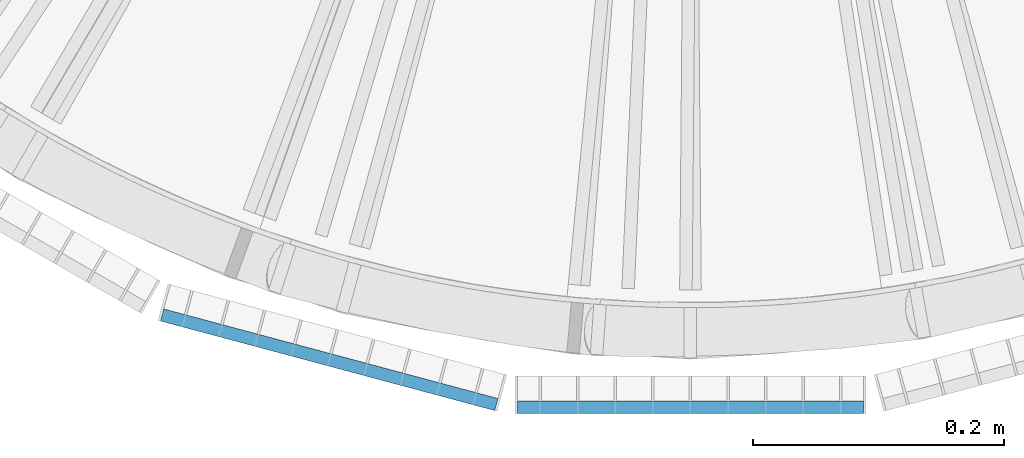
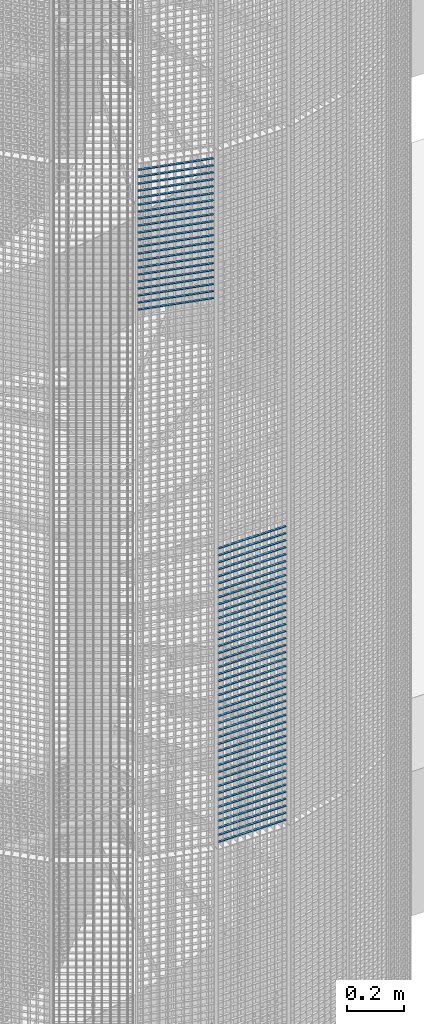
# One storey, part 149 of 1148: 64 beams, 2 elements without a shape of their own.
"""IFC2X3 building model written with IfcOpenShell, lengths in millimetres."""

from ifc_helpers import new_model, si_unit, frame, origin_with_axes, origin_2d_with_axis, place, context, subcontext, project, spatial, rectangle, extrude, material, type_object, element, aggregate, save


model = new_model("IFC2X3")

# Units and contexts
model_context = context("Model", 3, precision=1e-05, world=origin_with_axes())
body_context = subcontext(model_context, "Body", "Model", "MODEL_VIEW")
ifc_project = project(units=[si_unit("LENGTHUNIT", "METRE", prefix="MILLI"), si_unit("AREAUNIT", "SQUARE_METRE"), si_unit("VOLUMEUNIT", "CUBIC_METRE"), si_unit("MASSUNIT", "GRAM", prefix="KILO"), si_unit("TIMEUNIT", "SECOND"), si_unit("PLANEANGLEUNIT", "RADIAN"), si_unit("SOLIDANGLEUNIT", "STERADIAN"), si_unit("THERMODYNAMICTEMPERATUREUNIT", "DEGREE_CELSIUS"), si_unit("LUMINOUSINTENSITYUNIT", "LUMEN")], contexts=[model_context])

# Site, building, storey
site_placement = place(None, origin_with_axes())
site = spatial("IfcSite", under=ifc_project, at=site_placement, Name="Undefined", CompositionType="ELEMENT")
building_placement = place(site_placement, origin_with_axes())
building = spatial("IfcBuilding", under=site, at=building_placement, Name="Undefined", CompositionType="ELEMENT")
storey_placement = place(building_placement, origin_with_axes())
storey = spatial("IfcBuildingStorey", under=building, at=storey_placement, Name="Undefined", CompositionType="ELEMENT", Elevation=0.0)

# Assembly, beams
assembly_1_placement = place(storey_placement, origin_with_axes())
assembly_1 = element("IfcElementAssembly", 1, at=assembly_1_placement, inside=storey, Name="BORDURE", AssemblyPlace="NOTDEFINED", PredefinedType="NOTDEFINED")
ifc_material = material(Name="STEEL/S235JR")
beam_type = type_object("IfcBeamType", Name="PL2*10", PredefinedType="NOTDEFINED")
beam_1_placement = place(assembly_1_placement, frame((-137.996003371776, -1113.47999999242, 10290.0), z_axis=(0.0, -1.0, 0.0), x_axis=(1.0, 0.0, 0.0)))
beam_1 = element("IfcBeam", 2, at=beam_1_placement, type_object=beam_type, material=ifc_material, Name="ENTRETOISE", context=body_context, shape_type="SweptSolid", body=[
    extrude(rectangle(XDim=2.0, YDim=10.0, at=origin_2d_with_axis()), frame((275.999999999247, 9.09494701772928e-13, 1.53210777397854e-14), z_axis=(-1.0, 0.0, 0.0), x_axis=(0.0, -1.0, 0.0)), (0.0, 0.0, 1.0), 276.0),
])
beam_2_placement = place(assembly_1_placement, frame((-137.996003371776, -1113.47999999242, 10260.0), z_axis=(0.0, -1.0, 0.0), x_axis=(1.0, 0.0, 0.0)))
beam_2 = element("IfcBeam", 3, at=beam_2_placement, type_object=beam_type, material=ifc_material, Name="ENTRETOISE", context=body_context, shape_type="SweptSolid", body=[
    extrude(rectangle(XDim=2.0, YDim=10.0, at=origin_2d_with_axis()), frame((275.999999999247, 9.09494701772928e-13, 1.53210777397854e-14), z_axis=(-1.0, 0.0, 0.0), x_axis=(0.0, -1.0, 0.0)), (0.0, 0.0, 1.0), 276.0),
])
beam_3_placement = place(assembly_1_placement, frame((-137.996003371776, -1113.47999999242, 10230.0), z_axis=(0.0, -1.0, 0.0), x_axis=(1.0, 0.0, 0.0)))
beam_3 = element("IfcBeam", 4, at=beam_3_placement, type_object=beam_type, material=ifc_material, Name="ENTRETOISE", context=body_context, shape_type="SweptSolid", body=[
    extrude(rectangle(XDim=2.0, YDim=10.0, at=origin_2d_with_axis()), frame((275.999999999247, 9.09494701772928e-13, 1.53210777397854e-14), z_axis=(-1.0, 0.0, 0.0), x_axis=(0.0, -1.0, 0.0)), (0.0, 0.0, 1.0), 276.0),
])
beam_4_placement = place(assembly_1_placement, frame((-137.996003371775, -1113.47999999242, 10200.0), z_axis=(0.0, -1.0, 0.0), x_axis=(1.0, 0.0, 0.0)))
beam_4 = element("IfcBeam", 5, at=beam_4_placement, type_object=beam_type, material=ifc_material, Name="ENTRETOISE", context=body_context, shape_type="SweptSolid", body=[
    extrude(rectangle(XDim=2.0, YDim=10.0, at=origin_2d_with_axis()), frame((275.999999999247, 9.09494701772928e-13, 1.53210777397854e-14), z_axis=(-1.0, 0.0, 0.0), x_axis=(0.0, -1.0, 0.0)), (0.0, 0.0, 1.0), 276.0),
])
beam_5_placement = place(assembly_1_placement, frame((-137.996003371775, -1113.47999999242, 10170.0), z_axis=(0.0, -1.0, 0.0), x_axis=(1.0, 0.0, 0.0)))
beam_5 = element("IfcBeam", 6, at=beam_5_placement, type_object=beam_type, material=ifc_material, Name="ENTRETOISE", context=body_context, shape_type="SweptSolid", body=[
    extrude(rectangle(XDim=2.0, YDim=10.0, at=origin_2d_with_axis()), frame((275.999999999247, 9.09494701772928e-13, 1.53210777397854e-14), z_axis=(-1.0, 0.0, 0.0), x_axis=(0.0, -1.0, 0.0)), (0.0, 0.0, 1.0), 276.0),
])
beam_6_placement = place(assembly_1_placement, frame((-137.996003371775, -1113.47999999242, 10140.0), z_axis=(0.0, -1.0, 0.0), x_axis=(1.0, 0.0, 0.0)))
beam_6 = element("IfcBeam", 7, at=beam_6_placement, type_object=beam_type, material=ifc_material, Name="ENTRETOISE", context=body_context, shape_type="SweptSolid", body=[
    extrude(rectangle(XDim=2.0, YDim=10.0, at=origin_2d_with_axis()), frame((275.999999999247, 9.09494701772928e-13, 1.53210777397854e-14), z_axis=(-1.0, 0.0, 0.0), x_axis=(0.0, -1.0, 0.0)), (0.0, 0.0, 1.0), 276.0),
])
beam_7_placement = place(assembly_1_placement, frame((-137.996003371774, -1113.47999999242, 9720.0), z_axis=(0.0, -1.0, 0.0), x_axis=(1.0, 0.0, 0.0)))
beam_7 = element("IfcBeam", 8, at=beam_7_placement, type_object=beam_type, material=ifc_material, Name="ENTRETOISE", context=body_context, shape_type="SweptSolid", body=[
    extrude(rectangle(XDim=2.0, YDim=10.0, at=origin_2d_with_axis()), frame((275.999999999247, 9.09494701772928e-13, 1.53210777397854e-14), z_axis=(-1.0, 0.0, 0.0), x_axis=(0.0, -1.0, 0.0)), (0.0, 0.0, 1.0), 276.0),
])
beam_8_placement = place(assembly_1_placement, frame((-137.996003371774, -1113.47999999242, 9690.0), z_axis=(0.0, -1.0, 0.0), x_axis=(1.0, 0.0, 0.0)))
beam_8 = element("IfcBeam", 9, at=beam_8_placement, type_object=beam_type, material=ifc_material, Name="ENTRETOISE", context=body_context, shape_type="SweptSolid", body=[
    extrude(rectangle(XDim=2.0, YDim=10.0, at=origin_2d_with_axis()), frame((275.999999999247, 9.09494701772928e-13, 1.53210777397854e-14), z_axis=(-1.0, 0.0, 0.0), x_axis=(0.0, -1.0, 0.0)), (0.0, 0.0, 1.0), 276.0),
])
beam_9_placement = place(assembly_1_placement, frame((-137.996003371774, -1113.47999999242, 9750.0), z_axis=(0.0, -1.0, 0.0), x_axis=(1.0, 0.0, 0.0)))
beam_9 = element("IfcBeam", 10, at=beam_9_placement, type_object=beam_type, material=ifc_material, Name="ENTRETOISE", context=body_context, shape_type="SweptSolid", body=[
    extrude(rectangle(XDim=2.0, YDim=10.0, at=origin_2d_with_axis()), frame((275.999999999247, 9.09494701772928e-13, 1.53210777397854e-14), z_axis=(-1.0, 0.0, 0.0), x_axis=(0.0, -1.0, 0.0)), (0.0, 0.0, 1.0), 276.0),
])
beam_10_placement = place(assembly_1_placement, frame((-137.996003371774, -1113.47999999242, 9660.0), z_axis=(0.0, -1.0, 0.0), x_axis=(1.0, 0.0, 0.0)))
beam_10 = element("IfcBeam", 11, at=beam_10_placement, type_object=beam_type, material=ifc_material, Name="ENTRETOISE", context=body_context, shape_type="SweptSolid", body=[
    extrude(rectangle(XDim=2.0, YDim=10.0, at=origin_2d_with_axis()), frame((275.999999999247, 9.09494701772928e-13, 1.53210777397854e-14), z_axis=(-1.0, 0.0, 0.0), x_axis=(0.0, -1.0, 0.0)), (0.0, 0.0, 1.0), 276.0),
])
beam_11_placement = place(assembly_1_placement, frame((-137.996003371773, -1113.47999999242, 9630.0), z_axis=(0.0, -1.0, 0.0), x_axis=(1.0, 0.0, 0.0)))
beam_11 = element("IfcBeam", 12, at=beam_11_placement, type_object=beam_type, material=ifc_material, Name="ENTRETOISE", context=body_context, shape_type="SweptSolid", body=[
    extrude(rectangle(XDim=2.0, YDim=10.0, at=origin_2d_with_axis()), frame((275.999999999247, 9.09494701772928e-13, 1.53210777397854e-14), z_axis=(-1.0, 0.0, 0.0), x_axis=(0.0, -1.0, 0.0)), (0.0, 0.0, 1.0), 276.0),
])
beam_12_placement = place(assembly_1_placement, frame((-137.996003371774, -1113.47999999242, 9780.0), z_axis=(0.0, -1.0, 0.0), x_axis=(1.0, 0.0, 0.0)))
beam_12 = element("IfcBeam", 13, at=beam_12_placement, type_object=beam_type, material=ifc_material, Name="ENTRETOISE", context=body_context, shape_type="SweptSolid", body=[
    extrude(rectangle(XDim=2.0, YDim=10.0, at=origin_2d_with_axis()), frame((275.999999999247, 9.09494701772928e-13, 1.53210777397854e-14), z_axis=(-1.0, 0.0, 0.0), x_axis=(0.0, -1.0, 0.0)), (0.0, 0.0, 1.0), 276.0),
])
beam_13_placement = place(assembly_1_placement, frame((-137.996003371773, -1113.47999999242, 9600.0), z_axis=(0.0, -1.0, 0.0), x_axis=(1.0, 0.0, 0.0)))
beam_13 = element("IfcBeam", 14, at=beam_13_placement, type_object=beam_type, material=ifc_material, Name="ENTRETOISE", context=body_context, shape_type="SweptSolid", body=[
    extrude(rectangle(XDim=2.0, YDim=10.0, at=origin_2d_with_axis()), frame((275.999999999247, 9.09494701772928e-13, 1.53210777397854e-14), z_axis=(-1.0, 0.0, 0.0), x_axis=(0.0, -1.0, 0.0)), (0.0, 0.0, 1.0), 276.0),
])
beam_14_placement = place(assembly_1_placement, frame((-137.996003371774, -1113.47999999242, 9810.0), z_axis=(0.0, -1.0, 0.0), x_axis=(1.0, 0.0, 0.0)))
beam_14 = element("IfcBeam", 15, at=beam_14_placement, type_object=beam_type, material=ifc_material, Name="ENTRETOISE", context=body_context, shape_type="SweptSolid", body=[
    extrude(rectangle(XDim=2.0, YDim=10.0, at=origin_2d_with_axis()), frame((275.999999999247, 9.09494701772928e-13, 1.53210777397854e-14), z_axis=(-1.0, 0.0, 0.0), x_axis=(0.0, -1.0, 0.0)), (0.0, 0.0, 1.0), 276.0),
])
beam_15_placement = place(assembly_1_placement, frame((-137.996003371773, -1113.47999999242, 9570.0), z_axis=(0.0, -1.0, 0.0), x_axis=(1.0, 0.0, 0.0)))
beam_15 = element("IfcBeam", 16, at=beam_15_placement, type_object=beam_type, material=ifc_material, Name="ENTRETOISE", context=body_context, shape_type="SweptSolid", body=[
    extrude(rectangle(XDim=2.0, YDim=10.0, at=origin_2d_with_axis()), frame((275.999999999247, 9.09494701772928e-13, 1.53210777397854e-14), z_axis=(-1.0, 0.0, 0.0), x_axis=(0.0, -1.0, 0.0)), (0.0, 0.0, 1.0), 276.0),
])
beam_16_placement = place(assembly_1_placement, frame((-137.996003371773, -1113.47999999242, 9540.0), z_axis=(0.0, -1.0, 0.0), x_axis=(1.0, 0.0, 0.0)))
beam_16 = element("IfcBeam", 17, at=beam_16_placement, type_object=beam_type, material=ifc_material, Name="ENTRETOISE", context=body_context, shape_type="SweptSolid", body=[
    extrude(rectangle(XDim=2.0, YDim=10.0, at=origin_2d_with_axis()), frame((275.999999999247, 9.09494701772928e-13, 1.53210777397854e-14), z_axis=(-1.0, 0.0, 0.0), x_axis=(0.0, -1.0, 0.0)), (0.0, 0.0, 1.0), 276.0),
])
beam_17_placement = place(assembly_1_placement, frame((-137.996003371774, -1113.47999999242, 9840.0), z_axis=(0.0, -1.0, 0.0), x_axis=(1.0, 0.0, 0.0)))
beam_17 = element("IfcBeam", 18, at=beam_17_placement, type_object=beam_type, material=ifc_material, Name="ENTRETOISE", context=body_context, shape_type="SweptSolid", body=[
    extrude(rectangle(XDim=2.0, YDim=10.0, at=origin_2d_with_axis()), frame((275.999999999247, 9.09494701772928e-13, 1.53210777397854e-14), z_axis=(-1.0, 0.0, 0.0), x_axis=(0.0, -1.0, 0.0)), (0.0, 0.0, 1.0), 276.0),
])
beam_18_placement = place(assembly_1_placement, frame((-137.996003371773, -1113.47999999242, 9510.0), z_axis=(0.0, -1.0, 0.0), x_axis=(1.0, 0.0, 0.0)))
beam_18 = element("IfcBeam", 19, at=beam_18_placement, type_object=beam_type, material=ifc_material, Name="ENTRETOISE", context=body_context, shape_type="SweptSolid", body=[
    extrude(rectangle(XDim=2.0, YDim=10.0, at=origin_2d_with_axis()), frame((275.999999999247, 9.09494701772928e-13, 1.53210777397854e-14), z_axis=(-1.0, 0.0, 0.0), x_axis=(0.0, -1.0, 0.0)), (0.0, 0.0, 1.0), 276.0),
])
beam_19_placement = place(assembly_1_placement, frame((-137.996003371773, -1113.47999999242, 9480.0), z_axis=(0.0, -1.0, 0.0), x_axis=(1.0, 0.0, 0.0)))
beam_19 = element("IfcBeam", 20, at=beam_19_placement, type_object=beam_type, material=ifc_material, Name="ENTRETOISE", context=body_context, shape_type="SweptSolid", body=[
    extrude(rectangle(XDim=2.0, YDim=10.0, at=origin_2d_with_axis()), frame((275.999999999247, 9.09494701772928e-13, 1.53210777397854e-14), z_axis=(-1.0, 0.0, 0.0), x_axis=(0.0, -1.0, 0.0)), (0.0, 0.0, 1.0), 276.0),
])
beam_20_placement = place(assembly_1_placement, frame((-137.996003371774, -1113.47999999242, 9870.0), z_axis=(0.0, -1.0, 0.0), x_axis=(1.0, 0.0, 0.0)))
beam_20 = element("IfcBeam", 21, at=beam_20_placement, type_object=beam_type, material=ifc_material, Name="ENTRETOISE", context=body_context, shape_type="SweptSolid", body=[
    extrude(rectangle(XDim=2.0, YDim=10.0, at=origin_2d_with_axis()), frame((275.999999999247, 9.09494701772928e-13, 1.53210777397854e-14), z_axis=(-1.0, 0.0, 0.0), x_axis=(0.0, -1.0, 0.0)), (0.0, 0.0, 1.0), 276.0),
])
beam_21_placement = place(assembly_1_placement, frame((-137.996003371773, -1113.47999999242, 9450.0), z_axis=(0.0, -1.0, 0.0), x_axis=(1.0, 0.0, 0.0)))
beam_21 = element("IfcBeam", 22, at=beam_21_placement, type_object=beam_type, material=ifc_material, Name="ENTRETOISE", context=body_context, shape_type="SweptSolid", body=[
    extrude(rectangle(XDim=2.0, YDim=10.0, at=origin_2d_with_axis()), frame((275.999999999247, 9.09494701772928e-13, 1.53210777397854e-14), z_axis=(-1.0, 0.0, 0.0), x_axis=(0.0, -1.0, 0.0)), (0.0, 0.0, 1.0), 276.0),
])
beam_22_placement = place(assembly_1_placement, frame((-137.996003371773, -1113.47999999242, 9420.0), z_axis=(0.0, -1.0, 0.0), x_axis=(1.0, 0.0, 0.0)))
beam_22 = element("IfcBeam", 23, at=beam_22_placement, type_object=beam_type, material=ifc_material, Name="ENTRETOISE", context=body_context, shape_type="SweptSolid", body=[
    extrude(rectangle(XDim=2.0, YDim=10.0, at=origin_2d_with_axis()), frame((275.999999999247, 9.09494701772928e-13, 1.53210777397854e-14), z_axis=(-1.0, 0.0, 0.0), x_axis=(0.0, -1.0, 0.0)), (0.0, 0.0, 1.0), 276.0),
])
beam_23_placement = place(assembly_1_placement, frame((-137.996003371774, -1113.47999999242, 9900.0), z_axis=(0.0, -1.0, 0.0), x_axis=(1.0, 0.0, 0.0)))
beam_23 = element("IfcBeam", 24, at=beam_23_placement, type_object=beam_type, material=ifc_material, Name="ENTRETOISE", context=body_context, shape_type="SweptSolid", body=[
    extrude(rectangle(XDim=2.0, YDim=10.0, at=origin_2d_with_axis()), frame((275.999999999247, 9.09494701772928e-13, 1.53210777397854e-14), z_axis=(-1.0, 0.0, 0.0), x_axis=(0.0, -1.0, 0.0)), (0.0, 0.0, 1.0), 276.0),
])
beam_24_placement = place(assembly_1_placement, frame((-137.996003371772, -1113.47999999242, 9390.0), z_axis=(0.0, -1.0, 0.0), x_axis=(1.0, 0.0, 0.0)))
beam_24 = element("IfcBeam", 25, at=beam_24_placement, type_object=beam_type, material=ifc_material, Name="ENTRETOISE", context=body_context, shape_type="SweptSolid", body=[
    extrude(rectangle(XDim=2.0, YDim=10.0, at=origin_2d_with_axis()), frame((275.999999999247, 9.09494701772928e-13, 1.53210777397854e-14), z_axis=(-1.0, 0.0, 0.0), x_axis=(0.0, -1.0, 0.0)), (0.0, 0.0, 1.0), 276.0),
])
beam_25_placement = place(assembly_1_placement, frame((-137.996003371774, -1113.47999999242, 9930.0), z_axis=(0.0, -1.0, 0.0), x_axis=(1.0, 0.0, 0.0)))
beam_25 = element("IfcBeam", 26, at=beam_25_placement, type_object=beam_type, material=ifc_material, Name="ENTRETOISE", context=body_context, shape_type="SweptSolid", body=[
    extrude(rectangle(XDim=2.0, YDim=10.0, at=origin_2d_with_axis()), frame((275.999999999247, 9.09494701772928e-13, 1.53210777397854e-14), z_axis=(-1.0, 0.0, 0.0), x_axis=(0.0, -1.0, 0.0)), (0.0, 0.0, 1.0), 276.0),
])
beam_26_placement = place(assembly_1_placement, frame((-137.996003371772, -1113.47999999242, 9360.0), z_axis=(0.0, -1.0, 0.0), x_axis=(1.0, 0.0, 0.0)))
beam_26 = element("IfcBeam", 27, at=beam_26_placement, type_object=beam_type, material=ifc_material, Name="ENTRETOISE", context=body_context, shape_type="SweptSolid", body=[
    extrude(rectangle(XDim=2.0, YDim=10.0, at=origin_2d_with_axis()), frame((275.999999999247, 9.09494701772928e-13, 1.53210777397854e-14), z_axis=(-1.0, 0.0, 0.0), x_axis=(0.0, -1.0, 0.0)), (0.0, 0.0, 1.0), 276.0),
])
beam_27_placement = place(assembly_1_placement, frame((-137.996003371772, -1113.47999999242, 9330.0), z_axis=(0.0, -1.0, 0.0), x_axis=(1.0, 0.0, 0.0)))
beam_27 = element("IfcBeam", 28, at=beam_27_placement, type_object=beam_type, material=ifc_material, Name="ENTRETOISE", context=body_context, shape_type="SweptSolid", body=[
    extrude(rectangle(XDim=2.0, YDim=10.0, at=origin_2d_with_axis()), frame((275.999999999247, 9.09494701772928e-13, 1.53210777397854e-14), z_axis=(-1.0, 0.0, 0.0), x_axis=(0.0, -1.0, 0.0)), (0.0, 0.0, 1.0), 276.0),
])
beam_28_placement = place(assembly_1_placement, frame((-137.996003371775, -1113.47999999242, 9960.0), z_axis=(0.0, -1.0, 0.0), x_axis=(1.0, 0.0, 0.0)))
beam_28 = element("IfcBeam", 29, at=beam_28_placement, type_object=beam_type, material=ifc_material, Name="ENTRETOISE", context=body_context, shape_type="SweptSolid", body=[
    extrude(rectangle(XDim=2.0, YDim=10.0, at=origin_2d_with_axis()), frame((275.999999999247, 9.09494701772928e-13, 1.53210777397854e-14), z_axis=(-1.0, 0.0, 0.0), x_axis=(0.0, -1.0, 0.0)), (0.0, 0.0, 1.0), 276.0),
])
beam_29_placement = place(assembly_1_placement, frame((-137.996003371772, -1113.47999999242, 9300.0), z_axis=(0.0, -1.0, 0.0), x_axis=(1.0, 0.0, 0.0)))
beam_29 = element("IfcBeam", 30, at=beam_29_placement, type_object=beam_type, material=ifc_material, Name="ENTRETOISE", context=body_context, shape_type="SweptSolid", body=[
    extrude(rectangle(XDim=2.0, YDim=10.0, at=origin_2d_with_axis()), frame((275.999999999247, 9.09494701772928e-13, 1.53210777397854e-14), z_axis=(-1.0, 0.0, 0.0), x_axis=(0.0, -1.0, 0.0)), (0.0, 0.0, 1.0), 276.0),
])
beam_30_placement = place(assembly_1_placement, frame((-137.996003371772, -1113.47999999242, 9270.0), z_axis=(0.0, -1.0, 0.0), x_axis=(1.0, 0.0, 0.0)))
beam_30 = element("IfcBeam", 31, at=beam_30_placement, type_object=beam_type, material=ifc_material, Name="ENTRETOISE", context=body_context, shape_type="SweptSolid", body=[
    extrude(rectangle(XDim=2.0, YDim=10.0, at=origin_2d_with_axis()), frame((275.999999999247, 9.09494701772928e-13, 1.53210777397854e-14), z_axis=(-1.0, 0.0, 0.0), x_axis=(0.0, -1.0, 0.0)), (0.0, 0.0, 1.0), 276.0),
])
beam_31_placement = place(assembly_1_placement, frame((-137.996003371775, -1113.47999999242, 9990.0), z_axis=(0.0, -1.0, 0.0), x_axis=(1.0, 0.0, 0.0)))
beam_31 = element("IfcBeam", 32, at=beam_31_placement, type_object=beam_type, material=ifc_material, Name="ENTRETOISE", context=body_context, shape_type="SweptSolid", body=[
    extrude(rectangle(XDim=2.0, YDim=10.0, at=origin_2d_with_axis()), frame((275.999999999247, 9.09494701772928e-13, 1.53210777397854e-14), z_axis=(-1.0, 0.0, 0.0), x_axis=(0.0, -1.0, 0.0)), (0.0, 0.0, 1.0), 276.0),
])
beam_32_placement = place(assembly_1_placement, frame((-137.996003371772, -1113.47999999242, 9240.0), z_axis=(0.0, -1.0, 0.0), x_axis=(1.0, 0.0, 0.0)))
beam_32 = element("IfcBeam", 33, at=beam_32_placement, type_object=beam_type, material=ifc_material, Name="ENTRETOISE", context=body_context, shape_type="SweptSolid", body=[
    extrude(rectangle(XDim=2.0, YDim=10.0, at=origin_2d_with_axis()), frame((275.999999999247, 9.09494701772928e-13, 1.53210777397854e-14), z_axis=(-1.0, 0.0, 0.0), x_axis=(0.0, -1.0, 0.0)), (0.0, 0.0, 1.0), 276.0),
])
beam_33_placement = place(assembly_1_placement, frame((-137.996003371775, -1113.47999999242, 10020.0), z_axis=(0.0, -1.0, 0.0), x_axis=(1.0, 0.0, 0.0)))
beam_33 = element("IfcBeam", 34, at=beam_33_placement, type_object=beam_type, material=ifc_material, Name="ENTRETOISE", context=body_context, shape_type="SweptSolid", body=[
    extrude(rectangle(XDim=2.0, YDim=10.0, at=origin_2d_with_axis()), frame((275.999999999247, 9.09494701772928e-13, 1.53210777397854e-14), z_axis=(-1.0, 0.0, 0.0), x_axis=(0.0, -1.0, 0.0)), (0.0, 0.0, 1.0), 276.0),
])
beam_34_placement = place(assembly_1_placement, frame((-137.996003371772, -1113.47999999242, 9210.0), z_axis=(0.0, -1.0, 0.0), x_axis=(1.0, 0.0, 0.0)))
beam_34 = element("IfcBeam", 35, at=beam_34_placement, type_object=beam_type, material=ifc_material, Name="ENTRETOISE", context=body_context, shape_type="SweptSolid", body=[
    extrude(rectangle(XDim=2.0, YDim=10.0, at=origin_2d_with_axis()), frame((275.999999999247, 9.09494701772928e-13, 1.53210777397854e-14), z_axis=(-1.0, 0.0, 0.0), x_axis=(0.0, -1.0, 0.0)), (0.0, 0.0, 1.0), 276.0),
])
beam_35_placement = place(assembly_1_placement, frame((-137.996003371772, -1113.47999999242, 9180.0), z_axis=(0.0, -1.0, 0.0), x_axis=(1.0, 0.0, 0.0)))
beam_35 = element("IfcBeam", 36, at=beam_35_placement, type_object=beam_type, material=ifc_material, Name="ENTRETOISE", context=body_context, shape_type="SweptSolid", body=[
    extrude(rectangle(XDim=2.0, YDim=10.0, at=origin_2d_with_axis()), frame((275.999999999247, 9.09494701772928e-13, 1.53210777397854e-14), z_axis=(-1.0, 0.0, 0.0), x_axis=(0.0, -1.0, 0.0)), (0.0, 0.0, 1.0), 276.0),
])
beam_36_placement = place(assembly_1_placement, frame((-137.996003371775, -1113.47999999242, 10050.0), z_axis=(0.0, -1.0, 0.0), x_axis=(1.0, 0.0, 0.0)))
beam_36 = element("IfcBeam", 37, at=beam_36_placement, type_object=beam_type, material=ifc_material, Name="ENTRETOISE", context=body_context, shape_type="SweptSolid", body=[
    extrude(rectangle(XDim=2.0, YDim=10.0, at=origin_2d_with_axis()), frame((275.999999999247, 9.09494701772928e-13, 1.53210777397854e-14), z_axis=(-1.0, 0.0, 0.0), x_axis=(0.0, -1.0, 0.0)), (0.0, 0.0, 1.0), 276.0),
])
beam_37_placement = place(assembly_1_placement, frame((-137.996003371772, -1113.47999999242, 9150.0), z_axis=(0.0, -1.0, 0.0), x_axis=(1.0, 0.0, 0.0)))
beam_37 = element("IfcBeam", 38, at=beam_37_placement, type_object=beam_type, material=ifc_material, Name="ENTRETOISE", context=body_context, shape_type="SweptSolid", body=[
    extrude(rectangle(XDim=2.0, YDim=10.0, at=origin_2d_with_axis()), frame((275.999999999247, 9.09494701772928e-13, 1.53210777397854e-14), z_axis=(-1.0, 0.0, 0.0), x_axis=(0.0, -1.0, 0.0)), (0.0, 0.0, 1.0), 276.0),
])
beam_38_placement = place(assembly_1_placement, frame((-137.996003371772, -1113.47999999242, 9120.0), z_axis=(0.0, -1.0, 0.0), x_axis=(1.0, 0.0, 0.0)))
beam_38 = element("IfcBeam", 39, at=beam_38_placement, type_object=beam_type, material=ifc_material, Name="ENTRETOISE", context=body_context, shape_type="SweptSolid", body=[
    extrude(rectangle(XDim=2.0, YDim=10.0, at=origin_2d_with_axis()), frame((275.999999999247, 9.09494701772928e-13, 1.53210777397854e-14), z_axis=(-1.0, 0.0, 0.0), x_axis=(0.0, -1.0, 0.0)), (0.0, 0.0, 1.0), 276.0),
])
beam_39_placement = place(assembly_1_placement, frame((-137.996003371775, -1113.47999999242, 10080.0), z_axis=(0.0, -1.0, 0.0), x_axis=(1.0, 0.0, 0.0)))
beam_39 = element("IfcBeam", 40, at=beam_39_placement, type_object=beam_type, material=ifc_material, Name="ENTRETOISE", context=body_context, shape_type="SweptSolid", body=[
    extrude(rectangle(XDim=2.0, YDim=10.0, at=origin_2d_with_axis()), frame((275.999999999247, 9.09494701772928e-13, 1.53210777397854e-14), z_axis=(-1.0, 0.0, 0.0), x_axis=(0.0, -1.0, 0.0)), (0.0, 0.0, 1.0), 276.0),
])
beam_40_placement = place(assembly_1_placement, frame((-137.996003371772, -1113.47999999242, 9090.0), z_axis=(0.0, -1.0, 0.0), x_axis=(1.0, 0.0, 0.0)))
beam_40 = element("IfcBeam", 41, at=beam_40_placement, type_object=beam_type, material=ifc_material, Name="ENTRETOISE", context=body_context, shape_type="SweptSolid", body=[
    extrude(rectangle(XDim=2.0, YDim=10.0, at=origin_2d_with_axis()), frame((275.999999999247, 9.09494701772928e-13, 1.53210777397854e-14), z_axis=(-1.0, 0.0, 0.0), x_axis=(0.0, -1.0, 0.0)), (0.0, 0.0, 1.0), 276.0),
])
beam_41_placement = place(assembly_1_placement, frame((-137.996003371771, -1113.47999999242, 9060.0), z_axis=(0.0, -1.0, 0.0), x_axis=(1.0, 0.0, 0.0)))
beam_41 = element("IfcBeam", 42, at=beam_41_placement, type_object=beam_type, material=ifc_material, Name="ENTRETOISE", context=body_context, shape_type="SweptSolid", body=[
    extrude(rectangle(XDim=2.0, YDim=10.0, at=origin_2d_with_axis()), frame((275.999999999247, 9.09494701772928e-13, 1.53210777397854e-14), z_axis=(-1.0, 0.0, 0.0), x_axis=(0.0, -1.0, 0.0)), (0.0, 0.0, 1.0), 276.0),
])
beam_42_placement = place(assembly_1_placement, frame((-137.996003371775, -1113.47999999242, 10110.0), z_axis=(0.0, -1.0, 0.0), x_axis=(1.0, 0.0, 0.0)))
beam_42 = element("IfcBeam", 43, at=beam_42_placement, type_object=beam_type, material=ifc_material, Name="ENTRETOISE", context=body_context, shape_type="SweptSolid", body=[
    extrude(rectangle(XDim=2.0, YDim=10.0, at=origin_2d_with_axis()), frame((275.999999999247, 9.09494701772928e-13, 1.53210777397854e-14), z_axis=(-1.0, 0.0, 0.0), x_axis=(0.0, -1.0, 0.0)), (0.0, 0.0, 1.0), 276.0),
])
beam_43_placement = place(assembly_1_placement, frame((-137.99600337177, -1113.47999999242, 9030.0), z_axis=(0.0, -1.0, 0.0), x_axis=(1.0, 0.0, 0.0)))
beam_43 = element("IfcBeam", 44, at=beam_43_placement, type_object=beam_type, material=ifc_material, Name="ENTRETOISE", context=body_context, shape_type="SweptSolid", body=[
    extrude(rectangle(XDim=2.0, YDim=10.0, at=origin_2d_with_axis()), frame((275.999999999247, 9.09494701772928e-13, 1.53210777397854e-14), z_axis=(-1.0, 0.0, 0.0), x_axis=(0.0, -1.0, 0.0)), (0.0, 0.0, 1.0), 276.0),
])
aggregate(assembly_1, [beam_1, beam_2, beam_3, beam_4, beam_5, beam_6, beam_7, beam_8, beam_9, beam_10, beam_11, beam_12, beam_13, beam_14, beam_15, beam_16, beam_17, beam_18, beam_19, beam_20, beam_21, beam_22, beam_23, beam_24, beam_25, beam_26, beam_27, beam_28, beam_29, beam_30, beam_31, beam_32, beam_33, beam_34, beam_35, beam_36, beam_37, beam_38, beam_39, beam_40, beam_41, beam_42, beam_43])

assembly_2_placement = place(storey_placement, origin_with_axes())
assembly_2 = element("IfcElementAssembly", 45, at=assembly_2_placement, inside=storey, Name="BORDURE", AssemblyPlace="NOTDEFINED", PredefinedType="NOTDEFINED")
beam_44_placement = place(assembly_2_placement, frame((-421.483733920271, -1039.82309522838, 11970.0), z_axis=(-0.258819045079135, -0.965925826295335, 0.0), x_axis=(0.965925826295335, -0.258819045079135, 0.0)))
beam_44 = element("IfcBeam", 46, at=beam_44_placement, type_object=beam_type, material=ifc_material, Name="ENTRETOISE", context=body_context, shape_type="SweptSolid", body=[
    extrude(rectangle(XDim=2.0, YDim=10.0, at=origin_2d_with_axis()), frame((275.999999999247, 9.09494701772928e-13, 1.53210777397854e-14), z_axis=(-1.0, 0.0, 0.0), x_axis=(0.0, -1.0, 0.0)), (0.0, 0.0, 1.0), 276.0),
])
beam_45_placement = place(assembly_2_placement, frame((-421.483733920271, -1039.82309522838, 11940.0), z_axis=(-0.258819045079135, -0.965925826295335, 0.0), x_axis=(0.965925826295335, -0.258819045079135, 0.0)))
beam_45 = element("IfcBeam", 47, at=beam_45_placement, type_object=beam_type, material=ifc_material, Name="ENTRETOISE", context=body_context, shape_type="SweptSolid", body=[
    extrude(rectangle(XDim=2.0, YDim=10.0, at=origin_2d_with_axis()), frame((275.999999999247, 9.09494701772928e-13, 1.53210777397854e-14), z_axis=(-1.0, 0.0, 0.0), x_axis=(0.0, -1.0, 0.0)), (0.0, 0.0, 1.0), 276.0),
])
beam_46_placement = place(assembly_2_placement, frame((-421.483733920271, -1039.82309522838, 11910.0), z_axis=(-0.258819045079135, -0.965925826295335, 0.0), x_axis=(0.965925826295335, -0.258819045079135, 0.0)))
beam_46 = element("IfcBeam", 48, at=beam_46_placement, type_object=beam_type, material=ifc_material, Name="ENTRETOISE", context=body_context, shape_type="SweptSolid", body=[
    extrude(rectangle(XDim=2.0, YDim=10.0, at=origin_2d_with_axis()), frame((275.999999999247, 9.09494701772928e-13, 1.53210777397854e-14), z_axis=(-1.0, 0.0, 0.0), x_axis=(0.0, -1.0, 0.0)), (0.0, 0.0, 1.0), 276.0),
])
beam_47_placement = place(assembly_2_placement, frame((-421.483733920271, -1039.82309522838, 11880.0), z_axis=(-0.258819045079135, -0.965925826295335, 0.0), x_axis=(0.965925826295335, -0.258819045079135, 0.0)))
beam_47 = element("IfcBeam", 49, at=beam_47_placement, type_object=beam_type, material=ifc_material, Name="ENTRETOISE", context=body_context, shape_type="SweptSolid", body=[
    extrude(rectangle(XDim=2.0, YDim=10.0, at=origin_2d_with_axis()), frame((275.999999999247, 9.09494701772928e-13, 1.53210777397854e-14), z_axis=(-1.0, 0.0, 0.0), x_axis=(0.0, -1.0, 0.0)), (0.0, 0.0, 1.0), 276.0),
])
beam_48_placement = place(assembly_2_placement, frame((-421.483733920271, -1039.82309522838, 11850.0), z_axis=(-0.258819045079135, -0.965925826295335, 0.0), x_axis=(0.965925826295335, -0.258819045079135, 0.0)))
beam_48 = element("IfcBeam", 50, at=beam_48_placement, type_object=beam_type, material=ifc_material, Name="ENTRETOISE", context=body_context, shape_type="SweptSolid", body=[
    extrude(rectangle(XDim=2.0, YDim=10.0, at=origin_2d_with_axis()), frame((275.999999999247, 9.09494701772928e-13, 1.53210777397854e-14), z_axis=(-1.0, 0.0, 0.0), x_axis=(0.0, -1.0, 0.0)), (0.0, 0.0, 1.0), 276.0),
])
beam_49_placement = place(assembly_2_placement, frame((-421.483733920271, -1039.82309522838, 11820.0), z_axis=(-0.258819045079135, -0.965925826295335, 0.0), x_axis=(0.965925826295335, -0.258819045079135, 0.0)))
beam_49 = element("IfcBeam", 51, at=beam_49_placement, type_object=beam_type, material=ifc_material, Name="ENTRETOISE", context=body_context, shape_type="SweptSolid", body=[
    extrude(rectangle(XDim=2.0, YDim=10.0, at=origin_2d_with_axis()), frame((275.999999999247, 9.09494701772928e-13, 1.53210777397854e-14), z_axis=(-1.0, 0.0, 0.0), x_axis=(0.0, -1.0, 0.0)), (0.0, 0.0, 1.0), 276.0),
])
beam_50_placement = place(assembly_2_placement, frame((-421.483733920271, -1039.82309522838, 11790.0), z_axis=(-0.258819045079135, -0.965925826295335, 0.0), x_axis=(0.965925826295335, -0.258819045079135, 0.0)))
beam_50 = element("IfcBeam", 52, at=beam_50_placement, type_object=beam_type, material=ifc_material, Name="ENTRETOISE", context=body_context, shape_type="SweptSolid", body=[
    extrude(rectangle(XDim=2.0, YDim=10.0, at=origin_2d_with_axis()), frame((275.999999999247, 9.09494701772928e-13, 1.53210777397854e-14), z_axis=(-1.0, 0.0, 0.0), x_axis=(0.0, -1.0, 0.0)), (0.0, 0.0, 1.0), 276.0),
])
beam_51_placement = place(assembly_2_placement, frame((-421.483733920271, -1039.82309522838, 11760.0), z_axis=(-0.258819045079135, -0.965925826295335, 0.0), x_axis=(0.965925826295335, -0.258819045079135, 0.0)))
beam_51 = element("IfcBeam", 53, at=beam_51_placement, type_object=beam_type, material=ifc_material, Name="ENTRETOISE", context=body_context, shape_type="SweptSolid", body=[
    extrude(rectangle(XDim=2.0, YDim=10.0, at=origin_2d_with_axis()), frame((275.999999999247, 9.09494701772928e-13, 1.53210777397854e-14), z_axis=(-1.0, 0.0, 0.0), x_axis=(0.0, -1.0, 0.0)), (0.0, 0.0, 1.0), 276.0),
])
beam_52_placement = place(assembly_2_placement, frame((-421.483733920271, -1039.82309522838, 11730.0), z_axis=(-0.258819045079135, -0.965925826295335, 0.0), x_axis=(0.965925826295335, -0.258819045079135, 0.0)))
beam_52 = element("IfcBeam", 54, at=beam_52_placement, type_object=beam_type, material=ifc_material, Name="ENTRETOISE", context=body_context, shape_type="SweptSolid", body=[
    extrude(rectangle(XDim=2.0, YDim=10.0, at=origin_2d_with_axis()), frame((275.999999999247, 9.09494701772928e-13, 1.53210777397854e-14), z_axis=(-1.0, 0.0, 0.0), x_axis=(0.0, -1.0, 0.0)), (0.0, 0.0, 1.0), 276.0),
])
beam_53_placement = place(assembly_2_placement, frame((-421.48373392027, -1039.82309522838, 11700.0), z_axis=(-0.258819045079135, -0.965925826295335, 0.0), x_axis=(0.965925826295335, -0.258819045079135, 0.0)))
beam_53 = element("IfcBeam", 55, at=beam_53_placement, type_object=beam_type, material=ifc_material, Name="ENTRETOISE", context=body_context, shape_type="SweptSolid", body=[
    extrude(rectangle(XDim=2.0, YDim=10.0, at=origin_2d_with_axis()), frame((275.999999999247, 9.09494701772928e-13, 1.53210777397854e-14), z_axis=(-1.0, 0.0, 0.0), x_axis=(0.0, -1.0, 0.0)), (0.0, 0.0, 1.0), 276.0),
])
beam_54_placement = place(assembly_2_placement, frame((-421.48373392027, -1039.82309522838, 11670.0), z_axis=(-0.258819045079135, -0.965925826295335, 0.0), x_axis=(0.965925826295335, -0.258819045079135, 0.0)))
beam_54 = element("IfcBeam", 56, at=beam_54_placement, type_object=beam_type, material=ifc_material, Name="ENTRETOISE", context=body_context, shape_type="SweptSolid", body=[
    extrude(rectangle(XDim=2.0, YDim=10.0, at=origin_2d_with_axis()), frame((275.999999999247, 9.09494701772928e-13, 1.53210777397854e-14), z_axis=(-1.0, 0.0, 0.0), x_axis=(0.0, -1.0, 0.0)), (0.0, 0.0, 1.0), 276.0),
])
beam_55_placement = place(assembly_2_placement, frame((-421.48373392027, -1039.82309522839, 11640.0), z_axis=(-0.258819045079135, -0.965925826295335, 0.0), x_axis=(0.965925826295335, -0.258819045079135, 0.0)))
beam_55 = element("IfcBeam", 57, at=beam_55_placement, type_object=beam_type, material=ifc_material, Name="ENTRETOISE", context=body_context, shape_type="SweptSolid", body=[
    extrude(rectangle(XDim=2.0, YDim=10.0, at=origin_2d_with_axis()), frame((275.999999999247, 9.09494701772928e-13, 1.53210777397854e-14), z_axis=(-1.0, 0.0, 0.0), x_axis=(0.0, -1.0, 0.0)), (0.0, 0.0, 1.0), 276.0),
])
beam_56_placement = place(assembly_2_placement, frame((-421.48373392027, -1039.82309522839, 11610.0), z_axis=(-0.258819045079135, -0.965925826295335, 0.0), x_axis=(0.965925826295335, -0.258819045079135, 0.0)))
beam_56 = element("IfcBeam", 58, at=beam_56_placement, type_object=beam_type, material=ifc_material, Name="ENTRETOISE", context=body_context, shape_type="SweptSolid", body=[
    extrude(rectangle(XDim=2.0, YDim=10.0, at=origin_2d_with_axis()), frame((275.999999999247, 9.09494701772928e-13, 1.53210777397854e-14), z_axis=(-1.0, 0.0, 0.0), x_axis=(0.0, -1.0, 0.0)), (0.0, 0.0, 1.0), 276.0),
])
beam_57_placement = place(assembly_2_placement, frame((-421.48373392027, -1039.82309522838, 11580.0), z_axis=(-0.258819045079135, -0.965925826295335, 0.0), x_axis=(0.965925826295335, -0.258819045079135, 0.0)))
beam_57 = element("IfcBeam", 59, at=beam_57_placement, type_object=beam_type, material=ifc_material, Name="ENTRETOISE", context=body_context, shape_type="SweptSolid", body=[
    extrude(rectangle(XDim=2.0, YDim=10.0, at=origin_2d_with_axis()), frame((275.999999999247, 9.09494701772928e-13, 1.53210777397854e-14), z_axis=(-1.0, 0.0, 0.0), x_axis=(0.0, -1.0, 0.0)), (0.0, 0.0, 1.0), 276.0),
])
beam_58_placement = place(assembly_2_placement, frame((-421.48373392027, -1039.82309522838, 11550.0), z_axis=(-0.258819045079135, -0.965925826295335, 0.0), x_axis=(0.965925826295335, -0.258819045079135, 0.0)))
beam_58 = element("IfcBeam", 60, at=beam_58_placement, type_object=beam_type, material=ifc_material, Name="ENTRETOISE", context=body_context, shape_type="SweptSolid", body=[
    extrude(rectangle(XDim=2.0, YDim=10.0, at=origin_2d_with_axis()), frame((275.999999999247, 9.09494701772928e-13, 1.53210777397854e-14), z_axis=(-1.0, 0.0, 0.0), x_axis=(0.0, -1.0, 0.0)), (0.0, 0.0, 1.0), 276.0),
])
beam_59_placement = place(assembly_2_placement, frame((-421.48373392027, -1039.82309522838, 11520.0), z_axis=(-0.258819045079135, -0.965925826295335, 0.0), x_axis=(0.965925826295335, -0.258819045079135, 0.0)))
beam_59 = element("IfcBeam", 61, at=beam_59_placement, type_object=beam_type, material=ifc_material, Name="ENTRETOISE", context=body_context, shape_type="SweptSolid", body=[
    extrude(rectangle(XDim=2.0, YDim=10.0, at=origin_2d_with_axis()), frame((275.999999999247, 9.09494701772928e-13, 1.53210777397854e-14), z_axis=(-1.0, 0.0, 0.0), x_axis=(0.0, -1.0, 0.0)), (0.0, 0.0, 1.0), 276.0),
])
beam_60_placement = place(assembly_2_placement, frame((-421.48373392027, -1039.82309522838, 11490.0), z_axis=(-0.258819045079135, -0.965925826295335, 0.0), x_axis=(0.965925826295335, -0.258819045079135, 0.0)))
beam_60 = element("IfcBeam", 62, at=beam_60_placement, type_object=beam_type, material=ifc_material, Name="ENTRETOISE", context=body_context, shape_type="SweptSolid", body=[
    extrude(rectangle(XDim=2.0, YDim=10.0, at=origin_2d_with_axis()), frame((275.999999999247, 9.09494701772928e-13, 1.53210777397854e-14), z_axis=(-1.0, 0.0, 0.0), x_axis=(0.0, -1.0, 0.0)), (0.0, 0.0, 1.0), 276.0),
])
beam_61_placement = place(assembly_2_placement, frame((-421.48373392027, -1039.82309522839, 11460.0), z_axis=(-0.258819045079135, -0.965925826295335, 0.0), x_axis=(0.965925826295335, -0.258819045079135, 0.0)))
beam_61 = element("IfcBeam", 63, at=beam_61_placement, type_object=beam_type, material=ifc_material, Name="ENTRETOISE", context=body_context, shape_type="SweptSolid", body=[
    extrude(rectangle(XDim=2.0, YDim=10.0, at=origin_2d_with_axis()), frame((275.999999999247, 9.09494701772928e-13, 1.53210777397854e-14), z_axis=(-1.0, 0.0, 0.0), x_axis=(0.0, -1.0, 0.0)), (0.0, 0.0, 1.0), 276.0),
])
beam_62_placement = place(assembly_2_placement, frame((-421.48373392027, -1039.82309522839, 11430.0), z_axis=(-0.258819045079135, -0.965925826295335, 0.0), x_axis=(0.965925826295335, -0.258819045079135, 0.0)))
beam_62 = element("IfcBeam", 64, at=beam_62_placement, type_object=beam_type, material=ifc_material, Name="ENTRETOISE", context=body_context, shape_type="SweptSolid", body=[
    extrude(rectangle(XDim=2.0, YDim=10.0, at=origin_2d_with_axis()), frame((275.999999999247, 9.09494701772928e-13, 1.53210777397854e-14), z_axis=(-1.0, 0.0, 0.0), x_axis=(0.0, -1.0, 0.0)), (0.0, 0.0, 1.0), 276.0),
])
beam_63_placement = place(assembly_2_placement, frame((-421.483733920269, -1039.82309522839, 11400.0), z_axis=(-0.258819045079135, -0.965925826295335, 0.0), x_axis=(0.965925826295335, -0.258819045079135, 0.0)))
beam_63 = element("IfcBeam", 65, at=beam_63_placement, type_object=beam_type, material=ifc_material, Name="ENTRETOISE", context=body_context, shape_type="SweptSolid", body=[
    extrude(rectangle(XDim=2.0, YDim=10.0, at=origin_2d_with_axis()), frame((275.999999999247, 9.09494701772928e-13, 1.53210777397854e-14), z_axis=(-1.0, 0.0, 0.0), x_axis=(0.0, -1.0, 0.0)), (0.0, 0.0, 1.0), 276.0),
])
beam_64_placement = place(assembly_2_placement, frame((-421.483733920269, -1039.82309522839, 11370.0), z_axis=(-0.258819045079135, -0.965925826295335, 0.0), x_axis=(0.965925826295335, -0.258819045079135, 0.0)))
beam_64 = element("IfcBeam", 66, at=beam_64_placement, type_object=beam_type, material=ifc_material, Name="ENTRETOISE", context=body_context, shape_type="SweptSolid", body=[
    extrude(rectangle(XDim=2.0, YDim=10.0, at=origin_2d_with_axis()), frame((275.999999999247, 9.09494701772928e-13, 1.53210777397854e-14), z_axis=(-1.0, 0.0, 0.0), x_axis=(0.0, -1.0, 0.0)), (0.0, 0.0, 1.0), 276.0),
])
aggregate(assembly_2, [beam_44, beam_45, beam_46, beam_47, beam_48, beam_49, beam_50, beam_51, beam_52, beam_53, beam_54, beam_55, beam_56, beam_57, beam_58, beam_59, beam_60, beam_61, beam_62, beam_63, beam_64])

save(model, "model.ifc")
